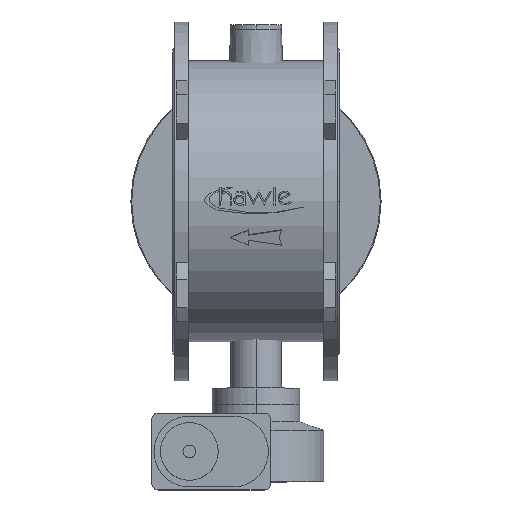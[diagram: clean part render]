
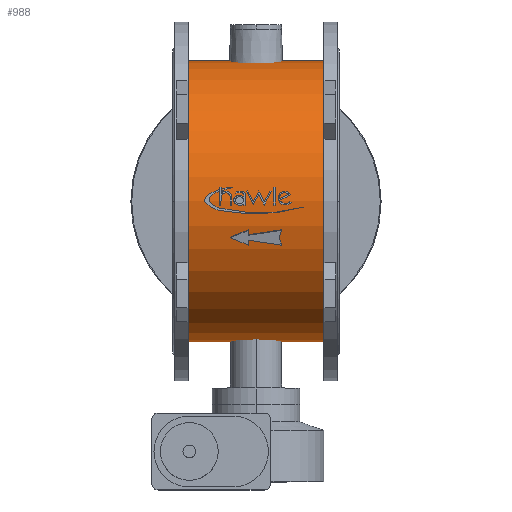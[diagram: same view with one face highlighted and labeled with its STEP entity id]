
A CAD part, top view. The second image highlights one B-rep face of the part: STEP entity #988.
In plain terms, the highlighted cylindrical face has radius 329 mm (diameter 658 mm), a partial arc.
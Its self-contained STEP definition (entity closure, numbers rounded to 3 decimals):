
#988=ADVANCED_FACE('',(#2132),#2133,.T.);
#2132=FACE_OUTER_BOUND('',#3888,.T.);
#2133=CYLINDRICAL_SURFACE('',#3889,329.0);
#3888=EDGE_LOOP('',(#5428,#5429,#5430,#5431));
#3889=AXIS2_PLACEMENT_3D('',#5432,#5433,#5434);
#5428=ORIENTED_EDGE('',*,*,#9088,.T.);
#5429=ORIENTED_EDGE('',*,*,#9089,.T.);
#5430=ORIENTED_EDGE('',*,*,#9090,.T.);
#5431=ORIENTED_EDGE('',*,*,#9091,.T.);
#5432=CARTESIAN_POINT('',(-354.0,0.,0.0));
#5433=DIRECTION('',(1.0,0.,0.0));
#5434=DIRECTION('',(0.,-1.0,0.0));
#9088=EDGE_CURVE('',#10614,#10615,#10616,.T.);
#9089=EDGE_CURVE('',#10615,#10617,#10618,.T.);
#9090=EDGE_CURVE('',#10617,#10619,#10620,.T.);
#9091=EDGE_CURVE('',#10619,#10614,#10621,.T.);
#10614=VERTEX_POINT('',#12761);
#10615=VERTEX_POINT('',#12762);
#10616=LINE('',#12763,#12764);
#10617=VERTEX_POINT('',#12765);
#10618=CIRCLE('',#12766,329.0);
#10619=VERTEX_POINT('',#12767);
#10620=LINE('',#12768,#12769);
#10621=CIRCLE('',#12770,329.0);
#12761=CARTESIAN_POINT('',(-354.0,-329.0,0.0));
#12762=CARTESIAN_POINT('',(-36.0,-329.0,0.0));
#12763=CARTESIAN_POINT('',(-354.0,-329.0,0.));
#12764=VECTOR('',#15314,1.0);
#12765=CARTESIAN_POINT('',(-36.0,329.0,0.));
#12766=AXIS2_PLACEMENT_3D('',#15315,#15316,#15317);
#12767=CARTESIAN_POINT('',(-354.0,329.0,0.));
#12768=CARTESIAN_POINT('',(-354.0,329.0,0.));
#12769=VECTOR('',#15318,1.0);
#12770=AXIS2_PLACEMENT_3D('',#15319,#15320,#15321);
#15314=DIRECTION('',(1.0,0.,0.0));
#15315=CARTESIAN_POINT('',(-36.0,0.,0.0));
#15316=DIRECTION('',(-1.0,0.,0.0));
#15317=DIRECTION('',(0.,-1.0,0.0));
#15318=DIRECTION('',(-1.0,0.,-0.0));
#15319=CARTESIAN_POINT('',(-354.0,0.,0.0));
#15320=DIRECTION('',(1.0,0.,0.0));
#15321=DIRECTION('',(0.,-1.0,0.0));
